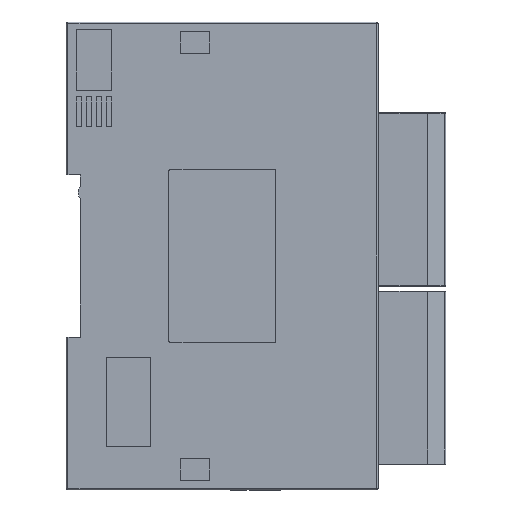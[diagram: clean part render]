
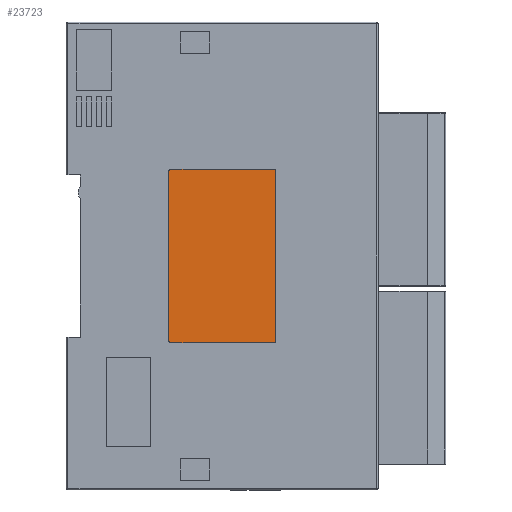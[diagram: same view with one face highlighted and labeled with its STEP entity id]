
A CAD part, left-side view. The second image highlights one B-rep face of the part: STEP entity #23723.
In plain terms, the highlighted planar face has unit normal (-1, 0, 0).
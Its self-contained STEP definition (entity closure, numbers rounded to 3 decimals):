
#23723=ADVANCED_FACE('',(#82824),#82826,.T.);
#82824=FACE_BOUND('',#82825,.T.);
#82825=EDGE_LOOP('',(#118889,#118890,#118891,#118892,#118893,#118894,#118895,#118896));
#82826=PLANE('',#82827);
#82827=AXIS2_PLACEMENT_3D('',#82828,#82829,#82830);
#82828=CARTESIAN_POINT('',(-235.806,-71.468,212.686));
#82829=DIRECTION('',(-1.,0.,0.));
#82830=DIRECTION('',(0.,0.,1.));
#118889=ORIENTED_EDGE('',*,*,#149732,.T.);
#118890=ORIENTED_EDGE('',*,*,#149733,.T.);
#118891=ORIENTED_EDGE('',*,*,#149734,.T.);
#118892=ORIENTED_EDGE('',*,*,#149735,.T.);
#118893=ORIENTED_EDGE('',*,*,#149736,.T.);
#118894=ORIENTED_EDGE('',*,*,#149737,.T.);
#118895=ORIENTED_EDGE('',*,*,#149738,.T.);
#118896=ORIENTED_EDGE('',*,*,#149739,.T.);
#149732=EDGE_CURVE('',#206176,#206177,#206178,.T.);
#149733=EDGE_CURVE('',#206177,#206179,#206180,.T.);
#149734=EDGE_CURVE('',#206179,#206181,#206182,.T.);
#149735=EDGE_CURVE('',#206181,#206183,#206184,.T.);
#149736=EDGE_CURVE('',#206183,#206185,#206186,.T.);
#149737=EDGE_CURVE('',#206185,#206187,#206188,.T.);
#149738=EDGE_CURVE('',#206187,#206189,#206190,.T.);
#149739=EDGE_CURVE('',#206189,#206176,#206191,.T.);
#206176=VERTEX_POINT('',#325248);
#206177=VERTEX_POINT('',#325249);
#206178=CIRCLE('',#325250,0.5);
#206179=VERTEX_POINT('',#325254);
#206180=LINE('',#325255,#325256);
#206181=VERTEX_POINT('',#325258);
#206182=CIRCLE('',#325259,0.5);
#206183=VERTEX_POINT('',#325263);
#206184=LINE('',#325264,#325265);
#206185=VERTEX_POINT('',#325267);
#206186=CIRCLE('',#325268,0.5);
#206187=VERTEX_POINT('',#325272);
#206188=LINE('',#325273,#325274);
#206189=VERTEX_POINT('',#325276);
#206190=CIRCLE('',#325277,0.5);
#206191=LINE('',#325281,#325282);
#325248=CARTESIAN_POINT('',(-235.806,-97.88,255.098));
#325249=CARTESIAN_POINT('',(-235.806,-97.38,255.598));
#325250=AXIS2_PLACEMENT_3D('',#325251,#325252,#325253);
#325251=CARTESIAN_POINT('',(-235.806,-97.38,255.098));
#325252=DIRECTION('',(-1.,0.,0.));
#325253=DIRECTION('',(0.,-1.,0.));
#325254=CARTESIAN_POINT('',(-235.806,-74.38,255.598));
#325255=CARTESIAN_POINT('',(-235.806,-97.38,255.598));
#325256=VECTOR('',#325257,1.);
#325257=DIRECTION('',(0.,1.,0.));
#325258=CARTESIAN_POINT('',(-235.806,-73.88,255.098));
#325259=AXIS2_PLACEMENT_3D('',#325260,#325261,#325262);
#325260=CARTESIAN_POINT('',(-235.806,-74.38,255.098));
#325261=DIRECTION('',(-1.,0.,0.));
#325262=DIRECTION('',(0.,0.,1.));
#325263=CARTESIAN_POINT('',(-235.806,-73.88,217.098));
#325264=CARTESIAN_POINT('',(-235.806,-73.88,255.098));
#325265=VECTOR('',#325266,1.);
#325266=DIRECTION('',(0.,0.,-1.));
#325267=CARTESIAN_POINT('',(-235.806,-74.38,216.598));
#325268=AXIS2_PLACEMENT_3D('',#325269,#325270,#325271);
#325269=CARTESIAN_POINT('',(-235.806,-74.38,217.098));
#325270=DIRECTION('',(-1.,0.,0.));
#325271=DIRECTION('',(0.,1.,0.));
#325272=CARTESIAN_POINT('',(-235.806,-97.38,216.598));
#325273=CARTESIAN_POINT('',(-235.806,-74.38,216.598));
#325274=VECTOR('',#325275,1.);
#325275=DIRECTION('',(0.,-1.,0.));
#325276=CARTESIAN_POINT('',(-235.806,-97.88,217.098));
#325277=AXIS2_PLACEMENT_3D('',#325278,#325279,#325280);
#325278=CARTESIAN_POINT('',(-235.806,-97.38,217.098));
#325279=DIRECTION('',(-1.,0.,0.));
#325280=DIRECTION('',(0.,0.,-1.));
#325281=CARTESIAN_POINT('',(-235.806,-97.88,217.098));
#325282=VECTOR('',#325283,1.);
#325283=DIRECTION('',(0.,0.,1.));
